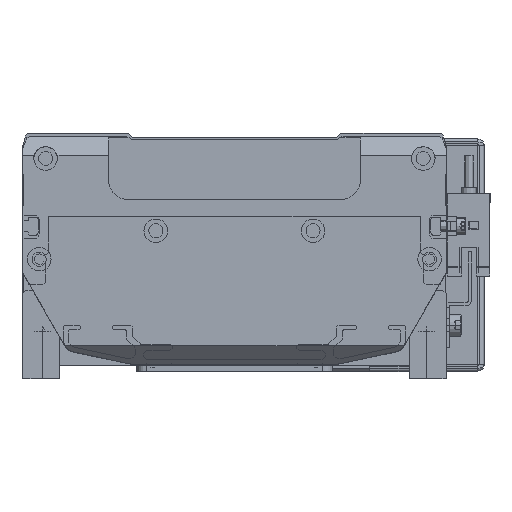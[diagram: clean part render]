
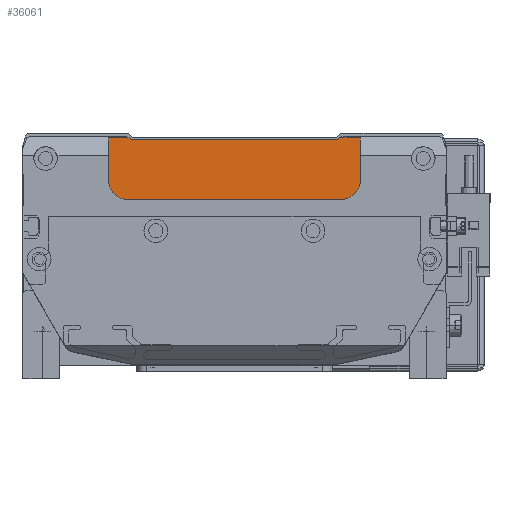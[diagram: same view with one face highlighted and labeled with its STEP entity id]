
A CAD part, front view. The second image highlights one B-rep face of the part: STEP entity #36061.
In plain terms, the highlighted planar face has unit normal (0, -1, 0) as drawn and (0, 0, -1) by its records, which use the part's own axes.
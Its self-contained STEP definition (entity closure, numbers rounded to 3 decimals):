
#62 = VERTEX_POINT ( 'NONE', #44884 ) ;
#2538 = VECTOR ( 'NONE', #19509, 1000. ) ;
#2879 = EDGE_CURVE ( 'NONE', #43025, #35838, #16563, .T. ) ;
#2977 = AXIS2_PLACEMENT_3D ( 'NONE', #32106, #39151, #5422 ) ;
#3139 = EDGE_CURVE ( 'NONE', #13036, #6992, #43907, .T. ) ;
#3359 = VERTEX_POINT ( 'NONE', #8065 ) ;
#5040 = AXIS2_PLACEMENT_3D ( 'NONE', #43795, #15182, #25691 ) ;
#5168 = CARTESIAN_POINT ( 'NONE',  ( 3.604, 21., -364. ) ) ;
#5393 = CARTESIAN_POINT ( 'NONE',  ( 0.903, 19.599, -364. ) ) ;
#5422 = DIRECTION ( 'NONE',  ( -1., 0., 0. ) ) ;
#6361 = DIRECTION ( 'NONE',  ( 0., -1., 0. ) ) ;
#6992 = VERTEX_POINT ( 'NONE', #38253 ) ;
#7958 = LINE ( 'NONE', #37072, #2538 ) ;
#8065 = CARTESIAN_POINT ( 'NONE',  ( -36.396, 1.5, -364. ) ) ;
#8499 = CIRCLE ( 'NONE', #43334, 6. ) ;
#9161 = ORIENTED_EDGE ( 'NONE', *, *, #12214, .T. ) ;
#9531 = DIRECTION ( 'NONE',  ( 0.894, -0.447, 0. ) ) ;
#9640 = DIRECTION ( 'NONE',  ( -1., 0., 0. ) ) ;
#9802 = LINE ( 'NONE', #5168, #23475 ) ;
#10132 = LINE ( 'NONE', #24108, #12274 ) ;
#12214 = EDGE_CURVE ( 'NONE', #20401, #28807, #7958, .T. ) ;
#12274 = VECTOR ( 'NONE', #6361, 1000. ) ;
#12709 = ORIENTED_EDGE ( 'NONE', *, *, #23055, .F. ) ;
#12759 = LINE ( 'NONE', #40822, #22638 ) ;
#13036 = VERTEX_POINT ( 'NONE', #15369 ) ;
#13579 = CARTESIAN_POINT ( 'NONE',  ( 37.604, 21., -364. ) ) ;
#15127 = DIRECTION ( 'NONE',  ( 0., 1., 0. ) ) ;
#15182 = DIRECTION ( 'NONE',  ( 0., 0., -1. ) ) ;
#15369 = CARTESIAN_POINT ( 'NONE',  ( 43.604, 1.5, -364. ) ) ;
#15942 = ORIENTED_EDGE ( 'NONE', *, *, #31706, .T. ) ;
#16551 = LINE ( 'NONE', #25956, #37875 ) ;
#16563 = CIRCLE ( 'NONE', #5040, 6. ) ;
#17076 = LINE ( 'NONE', #5393, #43870 ) ;
#17246 = VERTEX_POINT ( 'NONE', #32524 ) ;
#18790 = VERTEX_POINT ( 'NONE', #27354 ) ;
#19509 = DIRECTION ( 'NONE',  ( -0.894, -0.447, 0. ) ) ;
#19873 = CARTESIAN_POINT ( 'NONE',  ( 43.604, 15., -364. ) ) ;
#20086 = EDGE_CURVE ( 'NONE', #17246, #18790, #8499, .T. ) ;
#20401 = VERTEX_POINT ( 'NONE', #29903 ) ;
#21103 = ORIENTED_EDGE ( 'NONE', *, *, #3139, .T. ) ;
#21787 = ORIENTED_EDGE ( 'NONE', *, *, #28077, .T. ) ;
#22638 = VECTOR ( 'NONE', #44010, 1000. ) ;
#23055 = EDGE_CURVE ( 'NONE', #62, #6992, #17076, .T. ) ;
#23475 = VECTOR ( 'NONE', #44060, 1000. ) ;
#24108 = CARTESIAN_POINT ( 'NONE',  ( 43.604, 25., -364. ) ) ;
#24238 = DIRECTION ( 'NONE',  ( 1., 0., 0. ) ) ;
#24312 = CARTESIAN_POINT ( 'NONE',  ( 3.604, 1.5, -364. ) ) ;
#25691 = DIRECTION ( 'NONE',  ( 1., 0., 0. ) ) ;
#25858 = ORIENTED_EDGE ( 'NONE', *, *, #20086, .T. ) ;
#25956 = CARTESIAN_POINT ( 'NONE',  ( -36.396, 25., -364. ) ) ;
#26827 = EDGE_CURVE ( 'NONE', #3359, #17246, #16551, .T. ) ;
#26892 = FACE_OUTER_BOUND ( 'NONE', #40068, .T. ) ;
#27354 = CARTESIAN_POINT ( 'NONE',  ( -30.396, 21., -364. ) ) ;
#27610 = CARTESIAN_POINT ( 'NONE',  ( -30.396, 15., -364. ) ) ;
#28077 = EDGE_CURVE ( 'NONE', #18790, #43025, #9802, .T. ) ;
#28562 = PLANE ( 'NONE',  #2977 ) ;
#28807 = VERTEX_POINT ( 'NONE', #30690 ) ;
#29856 = LINE ( 'NONE', #30903, #36405 ) ;
#29903 = CARTESIAN_POINT ( 'NONE',  ( -28.893, 2., -364. ) ) ;
#30690 = CARTESIAN_POINT ( 'NONE',  ( -29.893, 1.5, -364. ) ) ;
#30903 = CARTESIAN_POINT ( 'NONE',  ( 3.604, 1.5, -364. ) ) ;
#31706 = EDGE_CURVE ( 'NONE', #35838, #13036, #10132, .T. ) ;
#32106 = CARTESIAN_POINT ( 'NONE',  ( 3.604, 25., -364. ) ) ;
#32524 = CARTESIAN_POINT ( 'NONE',  ( -36.396, 15., -364. ) ) ;
#35062 = ORIENTED_EDGE ( 'NONE', *, *, #2879, .T. ) ;
#35838 = VERTEX_POINT ( 'NONE', #19873 ) ;
#36061 = ADVANCED_FACE ( 'NONE', ( #26892 ), #28562, .T. ) ;
#36405 = VECTOR ( 'NONE', #44680, 1000. ) ;
#37072 = CARTESIAN_POINT ( 'NONE',  ( -28.893, 2., -364. ) ) ;
#37875 = VECTOR ( 'NONE', #15127, 1000. ) ;
#38253 = CARTESIAN_POINT ( 'NONE',  ( 37.1, 1.5, -364. ) ) ;
#38964 = ORIENTED_EDGE ( 'NONE', *, *, #42984, .T. ) ;
#39151 = DIRECTION ( 'NONE',  ( 0., 0., -1. ) ) ;
#40068 = EDGE_LOOP ( 'NONE', ( #9161, #38964, #43332, #25858, #21787, #35062, #15942, #21103, #12709, #44703 ) ) ;
#40822 = CARTESIAN_POINT ( 'NONE',  ( 3.604, 2., -364. ) ) ;
#41588 = DIRECTION ( 'NONE',  ( 0., 0., -1. ) ) ;
#41729 = VECTOR ( 'NONE', #9640, 1000. ) ;
#42984 = EDGE_CURVE ( 'NONE', #28807, #3359, #29856, .T. ) ;
#43025 = VERTEX_POINT ( 'NONE', #13579 ) ;
#43332 = ORIENTED_EDGE ( 'NONE', *, *, #26827, .T. ) ;
#43334 = AXIS2_PLACEMENT_3D ( 'NONE', #27610, #41588, #24238 ) ;
#43795 = CARTESIAN_POINT ( 'NONE',  ( 37.604, 15., -364. ) ) ;
#43870 = VECTOR ( 'NONE', #9531, 1000. ) ;
#43907 = LINE ( 'NONE', #24312, #41729 ) ;
#43981 = EDGE_CURVE ( 'NONE', #62, #20401, #12759, .T. ) ;
#44010 = DIRECTION ( 'NONE',  ( -1., 0., 0. ) ) ;
#44060 = DIRECTION ( 'NONE',  ( 1., 0., 0. ) ) ;
#44680 = DIRECTION ( 'NONE',  ( -1., 0., 0. ) ) ;
#44703 = ORIENTED_EDGE ( 'NONE', *, *, #43981, .T. ) ;
#44884 = CARTESIAN_POINT ( 'NONE',  ( 36.1, 2., -364. ) ) ;
